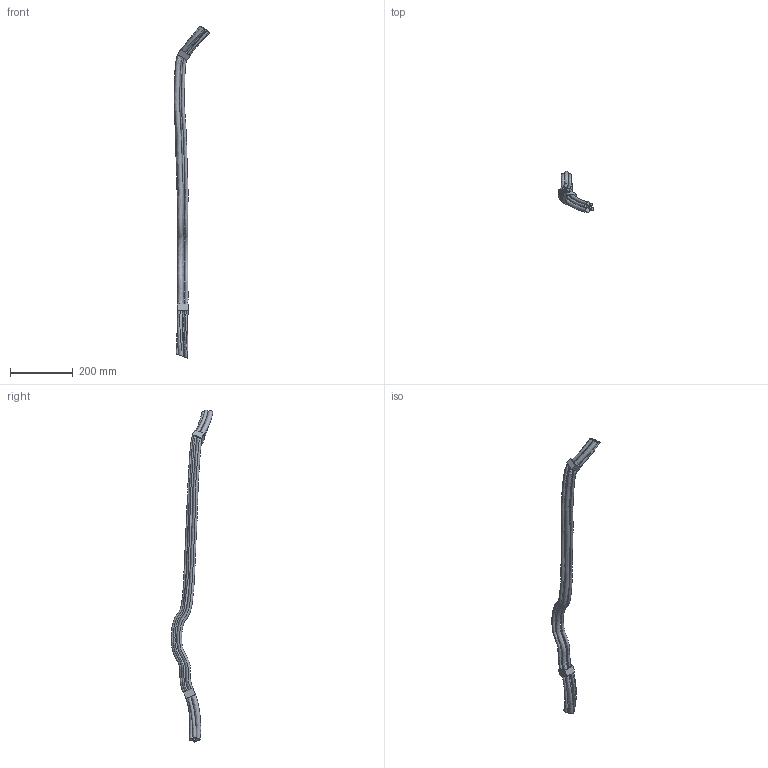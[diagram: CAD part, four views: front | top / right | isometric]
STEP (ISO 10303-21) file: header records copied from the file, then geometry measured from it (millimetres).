
FILE_DESCRIPTION (( 'STEP AP214' ), '1' );
FILE_NAME ('IRB4600_40-255_CABELS_LINK2_03.STEP', '2012-06-25T08:47:20', ( 'ABB' ), ( 'ABB' ), 'SwSTEP 2.0', 'SolidWorks 2010', '' );
FILE_SCHEMA (( 'AUTOMOTIVE_DESIGN' ));
Length unit declared in the file: millimetre
Products named in the file (1): IRB4600_40-255_CABELS_LINK2_03
Bounding box: 113.68 x 133.22 x 1061.25 mm (x, y, z)
Volume: 630812.7 mm3; surface area: 217032.3 mm2
Topology: 1 solids, 1 shells, 66 faces, 163 edges, 108 vertices
Faces by surface type: bspline 36, plane 28, cylinder 2
Entity records: 10346 total; most frequent: CARTESIAN_POINT 9085, ORIENTED_EDGE 326, EDGE_CURVE 163, DIRECTION 125, VERTEX_POINT 108, B_SPLINE_CURVE_WITH_KNOTS 106, EDGE_LOOP 85, ADVANCED_FACE 66
